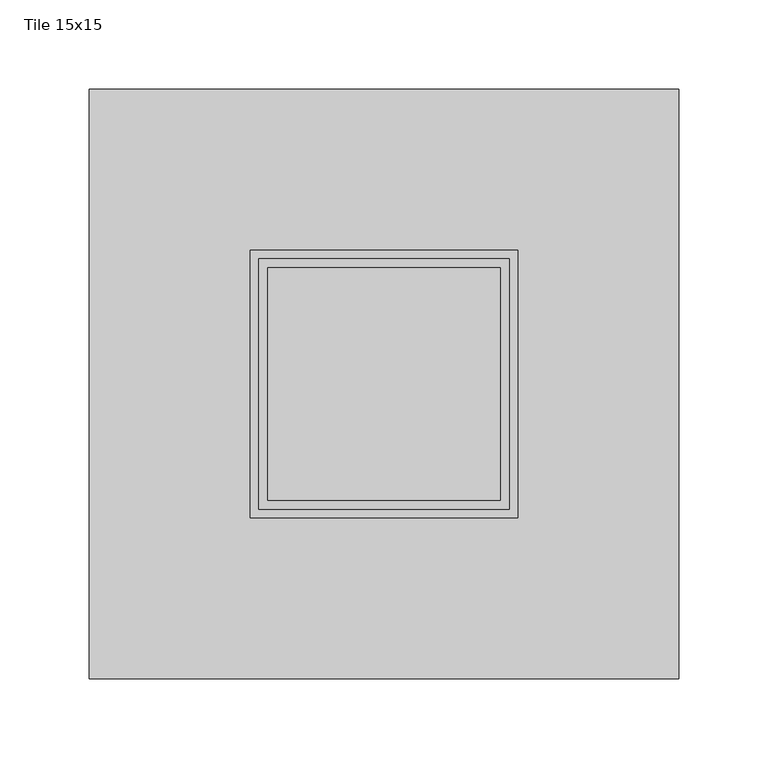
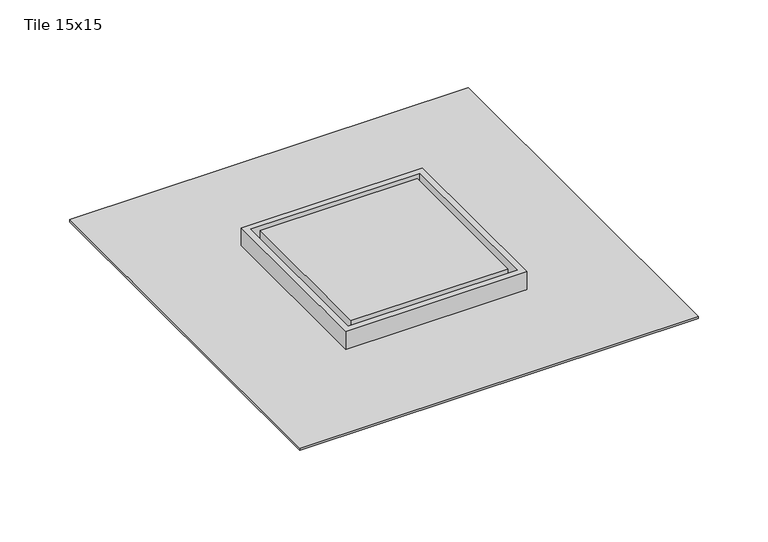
"""IFC4 building model written with IfcOpenShell, lengths in millimetres: sanitary terminal geometry, Z_DO_NOT_USE_NLRS_PF_52_UN_Aqua Jewels Quattro Tile Complete_Easydrain : Tile 15x15."""

from ifc_helpers import new_model, si_unit, frame, origin, place, context, project, spatial, polyline, outline, extrude, source, transform, mapped, element, save


def tile_15x15_8973f844(model_context):
    return source(origin(), model_context, "Body", "SweptSolid", [
        extrude(outline(polyline([(170.0, 155.0), (170.0, -175.0), (-160.0, -175.0), (-160.0, 155.0), (170.0, 155.0)])), frame((0.0, 0.0, -18.0), z_axis=(0.0, 0.0, 1.0), x_axis=(1.0, 0.0, 0.0)), (0.0, 0.0, 1.0), 2.0),
        extrude(outline(polyline([(80.0, 65.0), (80.0, -85.0), (-70.0, -85.0), (-70.0, 65.0), (80.0, 65.0)])), frame((0.0, 0.0, -37.0), z_axis=(0.0, 0.0, 1.0), x_axis=(1.0, 0.0, 0.0)), (0.0, 0.0, 1.0), 20.0),
        extrude(outline(polyline([(80.0, 65.0), (80.0, -85.0), (-70.0, -85.0), (-70.0, 65.0), (80.0, 65.0)]), holes=[polyline([(75.0, 60.0), (-65.0, 60.0), (-65.0, -80.0), (75.0, -80.0), (75.0, 60.0)])]), frame((0.0, 0.0, -17.0), z_axis=(0.0, 0.0, 1.0), x_axis=(1.0, 0.0, 0.0)), (0.0, 0.0, 1.0), 17.0),
        extrude(outline(polyline([(70.0, 55.0), (70.0, -75.0), (-60.0, -75.0), (-60.0, 55.0), (70.0, 55.0)])), frame((0.0, 0.0, -17.0), z_axis=(0.0, 0.0, 1.0), x_axis=(1.0, 0.0, 0.0)), (0.0, 0.0, 1.0), 17.0),
        extrude(outline(polyline([(110.0, 95.0), (110.0, -115.0), (-100.0, -115.0), (-100.0, 95.0), (110.0, 95.0)])), frame((0.0, 0.0, -19.0), z_axis=(0.0, 0.0, 1.0), x_axis=(1.0, 0.0, 0.0)), (0.0, 0.0, 1.0), 2.0),
    ])


if __name__ == "__main__":
    model = new_model("IFC4")
    model_context = context("Model", 3, world=origin())
    ifc_project = project(units=[si_unit("LENGTHUNIT", "METRE", prefix="MILLI")], contexts=[model_context])
    site = spatial("IfcSite", under=ifc_project)
    building = spatial("IfcBuilding", under=site)
    placement = place(None, origin())
    tile_15x15_shape = tile_15x15_8973f844(model_context)
    element("IfcSanitaryTerminal", 1, ObjectType="Z_DO_NOT_USE_NLRS_PF_52_UN_Aqua Jewels Quattro Tile Complete_Easydrain : Tile 15x15", at=placement, inside=building, context=model_context, shape_type="MappedRepresentation", body=[
        mapped(tile_15x15_shape, transform((0.0, 0.0, 0.0), x_axis=(1.0, 0.0, 0.0), y_axis=(0.0, 1.0, 0.0), z_axis=(0.0, 0.0, 1.0))),
    ])
    save(model, "model.ifc")
